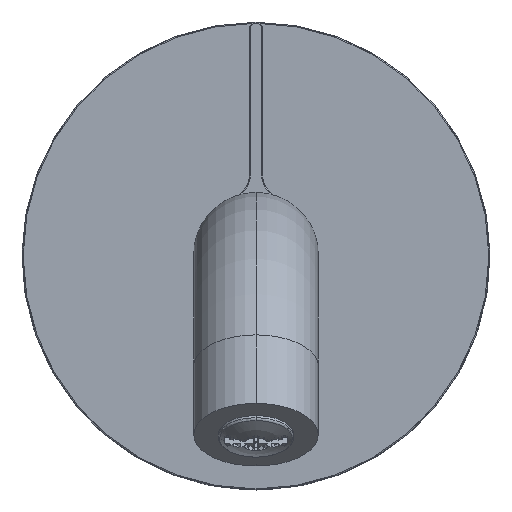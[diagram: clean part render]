
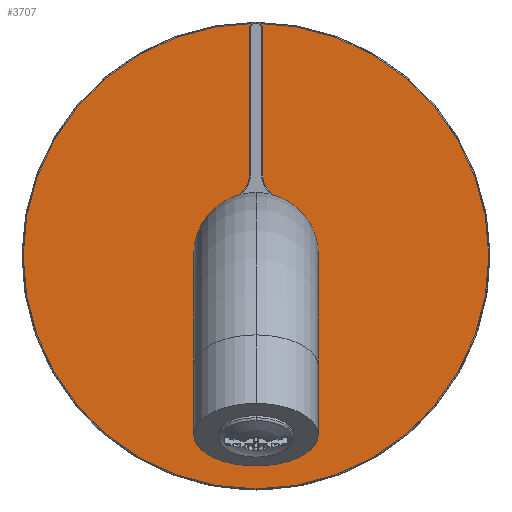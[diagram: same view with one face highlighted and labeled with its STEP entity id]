
A CAD part, top view. The second image highlights one B-rep face of the part: STEP entity #3707.
In plain terms, the highlighted planar face has unit normal (0, 0, 1).
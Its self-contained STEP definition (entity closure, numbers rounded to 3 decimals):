
#960=CARTESIAN_POINT('',(0.,0.,10.));
#961=DIRECTION('',(0.,0.,-1.));
#962=DIRECTION('',(0.,-1.,0.));
#963=AXIS2_PLACEMENT_3D('',#960,#961,#962);
#965=CARTESIAN_POINT('',(0.,0.,10.));
#966=DIRECTION('',(0.,0.,-1.));
#967=DIRECTION('',(0.,1.,0.));
#968=AXIS2_PLACEMENT_3D('',#965,#966,#967);
#970=CARTESIAN_POINT('',(0.,0.,10.));
#971=DIRECTION('',(0.,0.,1.));
#972=DIRECTION('',(1.,0.,0.));
#973=AXIS2_PLACEMENT_3D('',#970,#971,#972);
#975=CARTESIAN_POINT('',(0.,0.,10.));
#976=DIRECTION('',(0.,0.,1.));
#977=DIRECTION('',(-1.,0.,0.));
#978=AXIS2_PLACEMENT_3D('',#975,#976,#977);
#2109=CARTESIAN_POINT('',(0.,-44.8,10.));
#2110=CARTESIAN_POINT('',(0.,44.8,10.));
#2111=VERTEX_POINT('',#2109);
#2112=VERTEX_POINT('',#2110);
#2577=CARTESIAN_POINT('',(11.3,0.,10.));
#2578=CARTESIAN_POINT('',(-11.3,0.,10.));
#2579=VERTEX_POINT('',#2577);
#2580=VERTEX_POINT('',#2578);
#3691=CARTESIAN_POINT('',(0.,0.,10.));
#3692=DIRECTION('',(0.,0.,1.));
#3693=DIRECTION('',(0.,-1.,0.));
#3694=AXIS2_PLACEMENT_3D('',#3691,#3692,#3693);
#3695=PLANE('',#3694);
#3697=ORIENTED_EDGE('',*,*,#3696,.T.);
#3699=ORIENTED_EDGE('',*,*,#3698,.T.);
#3700=EDGE_LOOP('',(#3697,#3699));
#3701=FACE_OUTER_BOUND('',#3700,.F.);
#3702=ORIENTED_EDGE('',*,*,#3665,.T.);
#3704=ORIENTED_EDGE('',*,*,#3703,.T.);
#3705=EDGE_LOOP('',(#3702,#3704));
#3706=FACE_BOUND('',#3705,.F.);
#964=CIRCLE('',#963,44.8);
#969=CIRCLE('',#968,44.8);
#974=CIRCLE('',#973,11.3);
#979=CIRCLE('',#978,11.3);
#3665=EDGE_CURVE('',#2579,#2580,#974,.T.);
#3696=EDGE_CURVE('',#2111,#2112,#964,.T.);
#3698=EDGE_CURVE('',#2112,#2111,#969,.T.);
#3703=EDGE_CURVE('',#2580,#2579,#979,.T.);
#3707=ADVANCED_FACE('',(#3701,#3706),#3695,.T.);
